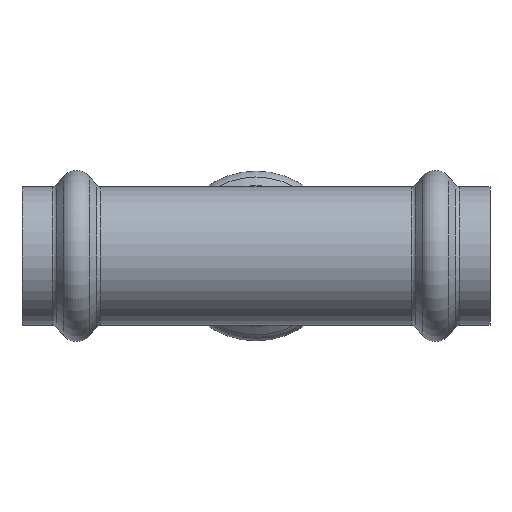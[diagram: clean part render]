
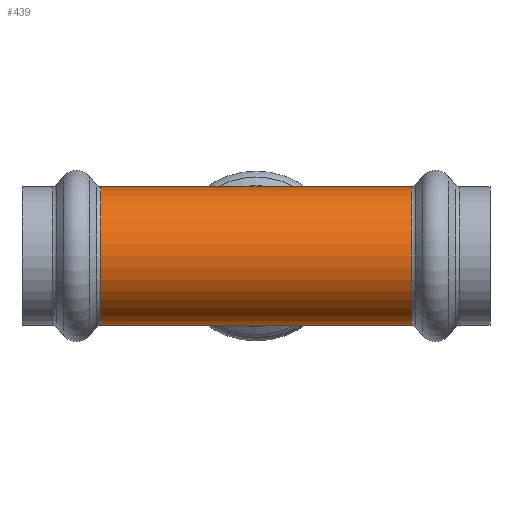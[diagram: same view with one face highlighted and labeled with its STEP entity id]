
A CAD part, front view. The second image highlights one B-rep face of the part: STEP entity #439.
In plain terms, the highlighted cylindrical face has radius 12.7 mm (diameter 25.4 mm), a partial arc.
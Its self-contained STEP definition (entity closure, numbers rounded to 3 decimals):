
#221 = CARTESIAN_POINT ( 'NONE',  ( -58.611, 0., 12.7 ) ) ;
#254 = VECTOR ( 'NONE', #2736, 1000. ) ;
#439 = ADVANCED_FACE ( 'NONE', ( #3328 ), #3237, .T. ) ;
#463 = CARTESIAN_POINT ( 'NONE',  ( -28.559, 0., 12.7 ) ) ;
#575 = EDGE_CURVE ( 'NONE', #3333, #2512, #3750, .T. ) ;
#610 = ORIENTED_EDGE ( 'NONE', *, *, #575, .T. ) ;
#897 = CARTESIAN_POINT ( 'NONE',  ( -28.559, 0., -12.7 ) ) ;
#915 = ORIENTED_EDGE ( 'NONE', *, *, #4260, .F. ) ;
#1100 = CARTESIAN_POINT ( 'NONE',  ( 28.559, 0., -12.7 ) ) ;
#1169 = LINE ( 'NONE', #3671, #254 ) ;
#1178 = EDGE_CURVE ( 'NONE', #2512, #3079, #2770, .T. ) ;
#1181 = ORIENTED_EDGE ( 'NONE', *, *, #1904, .T. ) ;
#1261 = CARTESIAN_POINT ( 'NONE',  ( -28.559, 0., 0. ) ) ;
#1303 = AXIS2_PLACEMENT_3D ( 'NONE', #1261, #3563, #1604 ) ;
#1539 = DIRECTION ( 'NONE',  ( -1., 0., 0. ) ) ;
#1548 = CARTESIAN_POINT ( 'NONE',  ( 28.559, 0., 0. ) ) ;
#1604 = DIRECTION ( 'NONE',  ( 0., 0., -1. ) ) ;
#1903 = DIRECTION ( 'NONE',  ( 0., 0., 1. ) ) ;
#1904 = EDGE_CURVE ( 'NONE', #4105, #3333, #2309, .T. ) ;
#2054 = VECTOR ( 'NONE', #1539, 1000. ) ;
#2070 = AXIS2_PLACEMENT_3D ( 'NONE', #3659, #3460, #3643 ) ;
#2309 = CIRCLE ( 'NONE', #2710, 12.7 ) ;
#2512 = VERTEX_POINT ( 'NONE', #463 ) ;
#2710 = AXIS2_PLACEMENT_3D ( 'NONE', #1548, #3815, #1903 ) ;
#2736 = DIRECTION ( 'NONE',  ( -1., 0., 0. ) ) ;
#2770 = CIRCLE ( 'NONE', #1303, 12.7 ) ;
#3079 = VERTEX_POINT ( 'NONE', #897 ) ;
#3237 = CYLINDRICAL_SURFACE ( 'NONE', #2070, 12.7 ) ;
#3328 = FACE_OUTER_BOUND ( 'NONE', #3367, .T. ) ;
#3333 = VERTEX_POINT ( 'NONE', #3342 ) ;
#3342 = CARTESIAN_POINT ( 'NONE',  ( 28.559, 0., 12.7 ) ) ;
#3367 = EDGE_LOOP ( 'NONE', ( #915, #1181, #610, #4206 ) ) ;
#3460 = DIRECTION ( 'NONE',  ( -1., 0., 0. ) ) ;
#3563 = DIRECTION ( 'NONE',  ( 1., 0., 0. ) ) ;
#3643 = DIRECTION ( 'NONE',  ( 0., 0., 1. ) ) ;
#3659 = CARTESIAN_POINT ( 'NONE',  ( -58.611, 0., 0. ) ) ;
#3671 = CARTESIAN_POINT ( 'NONE',  ( -58.611, 0., -12.7 ) ) ;
#3750 = LINE ( 'NONE', #221, #2054 ) ;
#3815 = DIRECTION ( 'NONE',  ( -1., 0., 0. ) ) ;
#4105 = VERTEX_POINT ( 'NONE', #1100 ) ;
#4206 = ORIENTED_EDGE ( 'NONE', *, *, #1178, .T. ) ;
#4260 = EDGE_CURVE ( 'NONE', #4105, #3079, #1169, .T. ) ;
